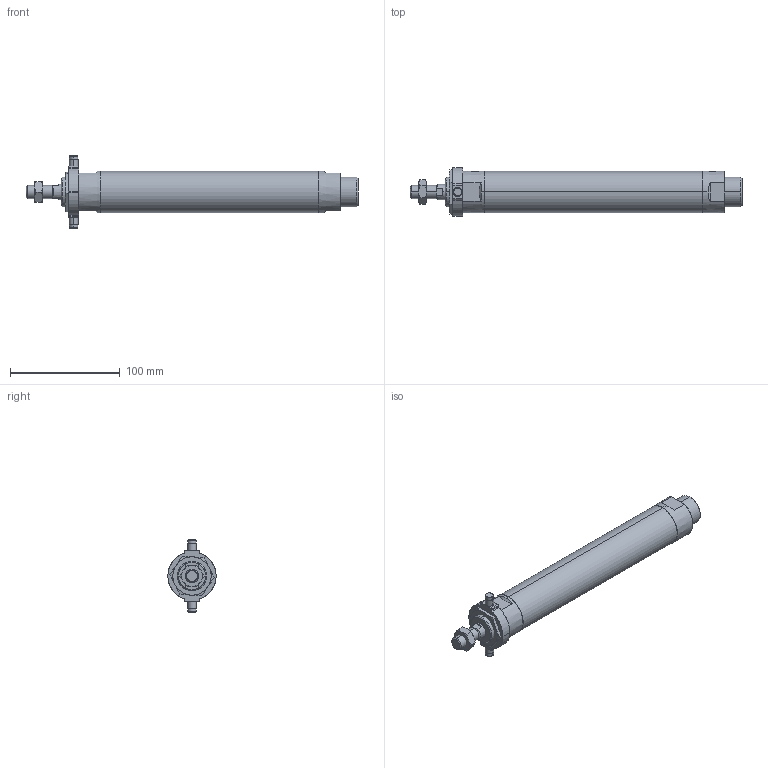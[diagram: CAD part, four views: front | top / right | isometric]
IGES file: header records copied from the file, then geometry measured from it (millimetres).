
Start section: SolidWorks IGES file using analytic representation for surfaces
Global section: file name: C:\Users\Toshiba\Desktop\J#2-32-150-T.IGS; native system: SolidWorks 2014; preprocessor: SolidWorks 2014; author: Toshiba; date: 160308.154156; units: millimetre
Bounding box: 303 x 44 x 66 mm (x, y, z)
Surface area: 42909.3 mm2 (no closed solid volume)
Topology: 0 solids, 0 shells, 133 faces, 2156 edges, 2152 vertices
Faces by surface type: bspline 67, revolution 66
